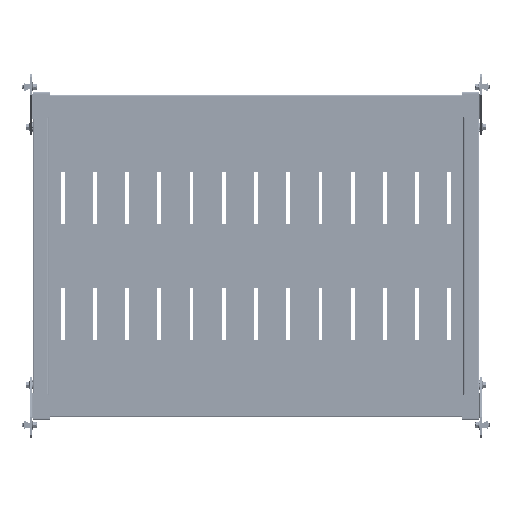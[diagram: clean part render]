
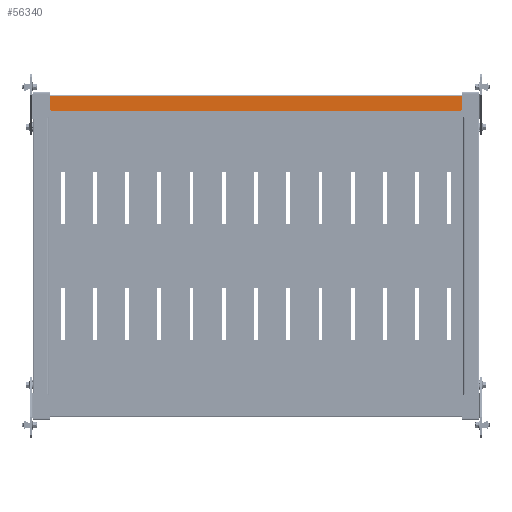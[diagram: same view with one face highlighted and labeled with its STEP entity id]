
A CAD part, front view. The second image highlights one B-rep face of the part: STEP entity #56340.
In plain terms, the highlighted planar face has unit normal (0, -1, 0).
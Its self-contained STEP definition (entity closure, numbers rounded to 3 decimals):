
#397 = EDGE_LOOP ( 'NONE', ( #37049, #73308, #3947, #30567, #22571, #62401 ) ) ;
#429 = DIRECTION ( 'NONE',  ( -1., 0., 0. ) ) ;
#1369 = DIRECTION ( 'NONE',  ( -1., 0., 0. ) ) ;
#2186 = VECTOR ( 'NONE', #52915, 1000. ) ;
#2278 = CARTESIAN_POINT ( 'NONE',  ( 228.5, -45., -316.5 ) ) ;
#3178 = DIRECTION ( 'NONE',  ( 1., 0., 0. ) ) ;
#3300 = CARTESIAN_POINT ( 'NONE',  ( 247.9, -45., -319.5 ) ) ;
#3947 = ORIENTED_EDGE ( 'NONE', *, *, #79086, .T. ) ;
#4602 = VERTEX_POINT ( 'NONE', #17568 ) ;
#7390 = CARTESIAN_POINT ( 'NONE',  ( 0., -45., 0. ) ) ;
#7731 = EDGE_CURVE ( 'NONE', #10181, #60435, #30309, .T. ) ;
#8812 = CARTESIAN_POINT ( 'NONE',  ( 247.9, -45., 319.5 ) ) ;
#10181 = VERTEX_POINT ( 'NONE', #34619 ) ;
#11837 = CARTESIAN_POINT ( 'NONE',  ( 225.5, -45., 0. ) ) ;
#16068 = VECTOR ( 'NONE', #61809, 1000. ) ;
#17568 = CARTESIAN_POINT ( 'NONE',  ( 228.5, -45., -319.5 ) ) ;
#18508 = FACE_OUTER_BOUND ( 'NONE', #397, .T. ) ;
#19885 = EDGE_CURVE ( 'NONE', #50911, #4602, #66716, .T. ) ;
#22571 = ORIENTED_EDGE ( 'NONE', *, *, #52977, .T. ) ;
#22576 = LINE ( 'NONE', #3300, #2186 ) ;
#24844 = EDGE_CURVE ( 'NONE', #72581, #10181, #43156, .T. ) ;
#27330 = DIRECTION ( 'NONE',  ( 0., -1., 0. ) ) ;
#30309 = CIRCLE ( 'NONE', #43395, 3. ) ;
#30567 = ORIENTED_EDGE ( 'NONE', *, *, #19885, .T. ) ;
#31650 = CARTESIAN_POINT ( 'NONE',  ( 0., -45., 319.5 ) ) ;
#33875 = CARTESIAN_POINT ( 'NONE',  ( 225.5, -45., -316.5 ) ) ;
#34471 = EDGE_CURVE ( 'NONE', #72581, #68258, #22576, .T. ) ;
#34619 = CARTESIAN_POINT ( 'NONE',  ( 228.5, -45., 319.5 ) ) ;
#37049 = ORIENTED_EDGE ( 'NONE', *, *, #24844, .T. ) ;
#41924 = AXIS2_PLACEMENT_3D ( 'NONE', #2278, #27330, #52319 ) ;
#43156 = LINE ( 'NONE', #31650, #71387 ) ;
#43395 = AXIS2_PLACEMENT_3D ( 'NONE', #71833, #53029, #1369 ) ;
#47086 = LINE ( 'NONE', #78159, #80903 ) ;
#50911 = VERTEX_POINT ( 'NONE', #33875 ) ;
#52319 = DIRECTION ( 'NONE',  ( -1., 0., 0. ) ) ;
#52915 = DIRECTION ( 'NONE',  ( 0., 0., -1. ) ) ;
#52977 = EDGE_CURVE ( 'NONE', #4602, #68258, #47086, .T. ) ;
#53029 = DIRECTION ( 'NONE',  ( 0., -1., 0. ) ) ;
#56340 = ADVANCED_FACE ( 'NONE', ( #18508 ), #68440, .F. ) ;
#58180 = DIRECTION ( 'NONE',  ( 0., 1., 0. ) ) ;
#60435 = VERTEX_POINT ( 'NONE', #80664 ) ;
#61809 = DIRECTION ( 'NONE',  ( 0., 0., -1. ) ) ;
#62401 = ORIENTED_EDGE ( 'NONE', *, *, #34471, .F. ) ;
#66716 = CIRCLE ( 'NONE', #41924, 3. ) ;
#67960 = LINE ( 'NONE', #11837, #16068 ) ;
#68052 = CARTESIAN_POINT ( 'NONE',  ( 247.9, -45., -319.5 ) ) ;
#68258 = VERTEX_POINT ( 'NONE', #68052 ) ;
#68440 = PLANE ( 'NONE',  #75912 ) ;
#69247 = DIRECTION ( 'NONE',  ( -1., 0., 0. ) ) ;
#71387 = VECTOR ( 'NONE', #429, 1000. ) ;
#71833 = CARTESIAN_POINT ( 'NONE',  ( 228.5, -45., 316.5 ) ) ;
#72581 = VERTEX_POINT ( 'NONE', #8812 ) ;
#73308 = ORIENTED_EDGE ( 'NONE', *, *, #7731, .T. ) ;
#75912 = AXIS2_PLACEMENT_3D ( 'NONE', #7390, #58180, #69247 ) ;
#78159 = CARTESIAN_POINT ( 'NONE',  ( 0., -45., -319.5 ) ) ;
#79086 = EDGE_CURVE ( 'NONE', #60435, #50911, #67960, .T. ) ;
#80664 = CARTESIAN_POINT ( 'NONE',  ( 225.5, -45., 316.5 ) ) ;
#80903 = VECTOR ( 'NONE', #3178, 1000. ) ;
